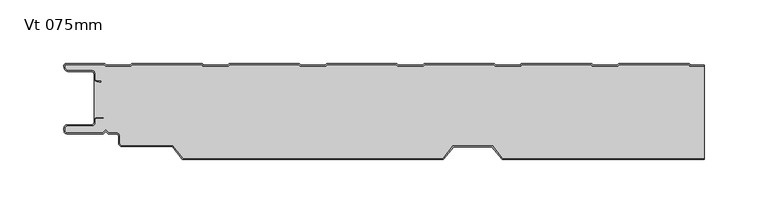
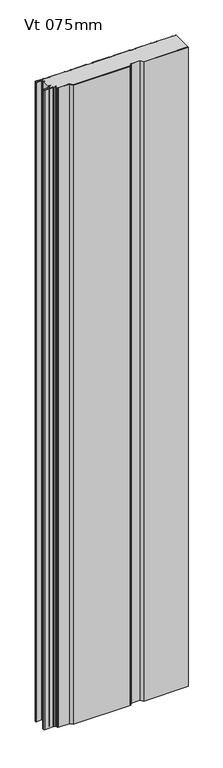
"""IFC4 building model written with IfcOpenShell, lengths in millimetres: plate geometry, KIP-MEX-KW-R19-CP-Vt-KW3_SL : Vt 075mm."""

from ifc_helpers import new_model, si_unit, point, frame_2d, origin, origin_with_axes, place, context, project, spatial, polyline, circle_curve, trimmed, segment, composite_curve, outline, extrude, source, transform, mapped, element, save


def vt_075mm_c0fd3bfb(model_context):
    return source(origin(), model_context, "Body", "SweptSolid", [
        extrude(outline(composite_curve([segment(polyline([(225.9039135, -2.1994992), (236.9739551, -2.1994992), (236.9739551, -74.0), (79.6249413, -74.0), (71.6249413, -64.0), (40.6636916, -64.0), (32.6630907, -74.0007512), (-170.3679967, -74.0007512), (-178.2758107, -63.8807501), (-218.2556822, -63.8807501)]), True, "CONTINUOUS"), segment(trimmed(circle_curve(frame_2d((-218.2060101, -62.3815743)), 1.4999984), [point((-218.2556822, -63.8807501))], [point((-219.7060085, -62.3815743))], False, "CARTESIAN"), True, "CONTINUOUS"), segment(polyline([(-219.7060085, -62.3815743), (-219.7060085, -56.8815682)]), True, "CONTINUOUS"), segment(trimmed(circle_curve(frame_2d((-222.7060141, -56.8815682)), 3.0000056), [point((-219.7060085, -56.8815682))], [point((-222.7060141, -53.8815626))], True, "CARTESIAN"), True, "CONTINUOUS"), segment(polyline([(-222.7060141, -53.8815626), (-228.2917754, -53.8815626), (-230.7060114, -51.4674051), (-233.1202474, -53.8817196), (-261.0062104, -53.8817196)]), True, "CONTINUOUS"), segment(trimmed(circle_curve(frame_2d((-261.0062104, -52.3814897)), 1.5002298), [point((-261.0062104, -53.8817196))], [point((-262.5064402, -52.3814897))], False, "CARTESIAN"), True, "CONTINUOUS"), segment(polyline([(-262.5064402, -52.3814897), (-262.5064402, -50.3983418)]), True, "CONTINUOUS"), segment(trimmed(circle_curve(frame_2d((-261.0055873, -50.3983418)), 1.5008529), [point((-262.5064402, -50.3983418))], [point((-261.0430722, -48.8979571))], False, "CARTESIAN"), True, "CONTINUOUS"), segment(polyline([(-261.0430722, -48.8979571), (-242.0059123, -48.8979571)]), True, "CONTINUOUS"), segment(trimmed(circle_curve(frame_2d((-242.0059123, -45.8966056)), 3.0013516), [point((-242.0059123, -48.8979571))], [point((-239.0056877, -45.8143642))], True, "CARTESIAN"), True, "CONTINUOUS"), segment(polyline([(-239.0056877, -45.8143642), (-239.0056877, -44.3893811)]), True, "CONTINUOUS"), segment(trimmed(circle_curve(frame_2d((-237.5051476, -44.3893811)), 1.5005402), [point((-239.0056877, -44.3893811))], [point((-237.5062722, -42.8888414))], False, "CARTESIAN"), True, "CONTINUOUS"), segment(polyline([(-237.5062722, -42.8888414), (-232.2480455, -42.8888414), (-232.2480455, -41.8719911), (-237.5115852, -41.8719911)]), True, "CONTINUOUS"), segment(trimmed(circle_curve(frame_2d((-237.5097191, -44.3622712)), 2.4902807), [point((-237.5115852, -41.8719911))], [point((-239.9999998, -44.3622712))], True, "CARTESIAN"), True, "CONTINUOUS"), segment(polyline([(-239.9999998, -44.3622712), (-239.9999998, -11.7956848)]), True, "CONTINUOUS"), segment(trimmed(circle_curve(frame_2d((-237.507267, -11.5959632)), 2.500721), [point((-239.9999998, -11.7956848))], [point((-237.9396711, -14.0590167))], True, "CARTESIAN"), True, "CONTINUOUS"), segment(polyline([(-237.9396711, -14.0590167), (-234.3973739, -14.6808886), (-234.2244628, -13.6959552), (-237.7667627, -13.0740827)]), True, "CONTINUOUS"), segment(trimmed(circle_curve(frame_2d((-237.5072716, -11.5959732)), 1.5007143), [point((-237.7667627, -13.0740827))], [point((-239.0079859, -11.5959732))], False, "CARTESIAN"), True, "CONTINUOUS"), segment(polyline([(-239.0079859, -11.5959732), (-239.0079859, -8.000131)]), True, "CONTINUOUS"), segment(trimmed(circle_curve(frame_2d((-242.0093089, -8.002219)), 3.0013237), [point((-239.0079859, -8.000131))], [point((-242.0093089, -5.0008953))], True, "CARTESIAN"), True, "CONTINUOUS"), segment(polyline([(-242.0093089, -5.0008953), (-260.0061347, -5.0008953)]), True, "CONTINUOUS"), segment(trimmed(circle_curve(frame_2d((-260.0061347, -2.5012654)), 2.4996299), [point((-260.0061347, -5.0008953))], [point((-262.5057646, -2.5012654))], False, "CARTESIAN"), True, "CONTINUOUS"), segment(polyline([(-262.5057646, -2.5012654), (-262.5057646, -1.0), (-232.0999194, -1.0), (-231.0133951, -2.1994992), (-211.0814168, -2.1994992), (-209.9948925, -1.0), (-155.9470346, -1.0), (-154.8605103, -2.1994992), (-134.928532, -2.1994992), (-133.8420077, -1.0), (-79.7941498, -1.0), (-78.7076256, -2.1994992), (-58.7756472, -2.1994992), (-57.689123, -1.0), (-3.6412651, -1.0), (-2.5547408, -2.1994992), (17.3772375, -2.1994992), (18.4637618, -1.0), (72.5116197, -1.0), (73.598144, -2.1994992), (93.5301223, -2.1994992), (94.6152208, -1.0), (148.6645044, -1.0), (149.7510287, -2.1994992), (169.683007, -2.1994992), (170.7695313, -1.0), (224.8173892, -1.0), (225.9039135, -2.1994992)]), True, "CONTINUOUS")], self_intersect=False)), origin_with_axes(), (0.0, 0.0, 1.0), 2400.0),
        extrude(outline(composite_curve([segment(polyline([(226.3473579, -1.1979254), (236.9739551, -1.1979254), (236.9739551, -2.1979254), (225.9039135, -2.1979254), (224.8173892, -0.9984262), (170.7695313, -0.9984262), (169.683007, -2.1979254), (149.7510287, -2.1979254), (148.6645044, -0.9984262), (94.6166466, -0.9984262), (93.5301223, -2.1979254), (73.598144, -2.1979254), (72.5116197, -0.9984262), (18.462336, -0.9984262), (17.3772375, -2.1979254), (-2.5547408, -2.1979254), (-3.6412651, -0.9984262), (-57.6905487, -0.9984262), (-58.7756472, -2.1979254), (-78.7076256, -2.1979254), (-79.7941498, -0.9984262), (-133.8434335, -0.9984262), (-134.928532, -2.1979254), (-154.8605103, -2.1979254), (-155.9470346, -0.9984262), (-209.9963182, -0.9984262), (-211.0814168, -2.1979254), (-231.0133951, -2.1979254), (-232.0999194, -0.9984262), (-262.5058795, -0.9984262), (-262.5058795, -2.4998352)]), True, "CONTINUOUS"), segment(trimmed(circle_curve(frame_2d((-260.0060773, -2.4998352)), 2.4998022), [point((-262.5058795, -2.4998352))], [point((-260.0060773, -4.9996374))], True, "CARTESIAN"), True, "CONTINUOUS"), segment(polyline([(-260.0060773, -4.9996374), (-242.0051314, -4.9996374)]), True, "CONTINUOUS"), segment(trimmed(circle_curve(frame_2d((-242.0051314, -8.0003457)), 3.0007082), [point((-242.0051314, -4.9996374))], [point((-239.0044239, -7.9982581))], False, "CARTESIAN"), True, "CONTINUOUS"), segment(polyline([(-239.0044239, -7.9982581), (-239.0044239, -11.5945268)]), True, "CONTINUOUS"), segment(trimmed(circle_curve(frame_2d((-237.504025, -11.5945268)), 1.5003989), [point((-239.0044239, -11.5945268))], [point((-237.7635333, -13.072313))], True, "CARTESIAN"), True, "CONTINUOUS"), segment(polyline([(-237.7635333, -13.072313), (-234.2214587, -13.694323), (-234.3944392, -14.679371), (-237.9367138, -14.0573259)]), True, "CONTINUOUS"), segment(trimmed(circle_curve(frame_2d((-237.5042133, -11.5944251)), 2.5005873), [point((-237.9367138, -14.0573259))], [point((-240.0048002, -11.5958995))], False, "CARTESIAN"), True, "CONTINUOUS"), segment(polyline([(-240.0048002, -11.5958995), (-240.0048002, -7.9987586)]), True, "CONTINUOUS"), segment(trimmed(circle_curve(frame_2d((-242.0053159, -8.0002578)), 2.0005162), [point((-240.0048002, -7.9987586))], [point((-242.0053159, -5.9997416))], True, "CARTESIAN"), True, "CONTINUOUS"), segment(polyline([(-242.0053159, -5.9997416), (-260.0060748, -5.9997416)]), True, "CONTINUOUS"), segment(trimmed(circle_curve(frame_2d((-260.0060748, -2.4998716)), 3.49987), [point((-260.0060748, -5.9997416))], [point((-263.5059449, -2.4998716))], False, "CARTESIAN"), True, "CONTINUOUS"), segment(polyline([(-263.5059449, -2.4998716), (-263.5059449, -1.4999879)]), True, "CONTINUOUS"), segment(trimmed(circle_curve(frame_2d((-262.0059812, -1.4999879)), 1.4999637), [point((-263.5059449, -1.4999879))], [point((-262.0059812, -2.42e-05))], False, "CARTESIAN"), True, "CONTINUOUS"), segment(polyline([(-262.0059812, -2.42e-05), (-231.6550494, -2.42e-05), (-230.5699507, -1.1979254), (-211.5248611, -1.1979254), (-210.4383368, 0.0), (-155.5021646, 0.0), (-154.4170659, -1.1979254), (-135.3719764, -1.1979254), (-134.2854521, 0.0), (-79.3492799, 0.0), (-78.2641812, -1.1979254), (-59.2190916, -1.1979254), (-58.1325673, 0.0), (-3.1963951, 0.0), (-2.1112964, -1.1979254), (16.9337932, -1.1979254), (18.0203174, 0.0), (72.9564896, 0.0), (74.0415883, -1.1979254), (93.0866779, -1.1979254), (94.1732022, 0.0), (149.1093744, 0.0), (150.1944731, -1.1979254), (169.2395627, -1.1979254), (170.326087, 0.0), (225.2622592, 0.0), (226.3473579, -1.1979254)]), True, "CONTINUOUS")], self_intersect=False)), origin_with_axes(), (0.0, 0.0, 1.0), 2400.0),
        extrude(outline(composite_curve([segment(polyline([(79.6249413, -74.0), (236.9739551, -74.0), (236.9739551, -75.0), (79.1443164, -75.0), (71.1443164, -65.0), (41.1443164, -65.0), (33.1443164, -75.0), (-170.8556836, -75.0), (-178.7634976, -64.8799997), (-218.270141, -64.8799997)]), True, "CONTINUOUS"), segment(trimmed(circle_curve(frame_2d((-218.2060109, -62.3808228)), 2.4999995), [point((-218.270141, -64.8799997))], [point((-220.7060104, -62.3808228))], False, "CARTESIAN"), True, "CONTINUOUS"), segment(polyline([(-220.7060104, -62.3808228), (-220.7060104, -56.8808208)]), True, "CONTINUOUS"), segment(trimmed(circle_curve(frame_2d((-222.7060123, -56.8808208)), 2.0000019), [point((-220.7060104, -56.8808208))], [point((-222.7060123, -54.880819))], True, "CARTESIAN"), True, "CONTINUOUS"), segment(polyline([(-222.7060123, -54.880819), (-228.706004, -54.880819), (-230.7060114, -52.8808375), (-232.7060188, -54.8808707), (-261.006077, -54.8808707)]), True, "CONTINUOUS"), segment(trimmed(circle_curve(frame_2d((-261.006077, -52.3807949)), 2.5000758), [point((-261.006077, -54.8808707))], [point((-263.5061528, -52.3807949))], False, "CARTESIAN"), True, "CONTINUOUS"), segment(polyline([(-263.5061528, -52.3807949), (-263.5061528, -50.3981504)]), True, "CONTINUOUS"), segment(trimmed(circle_curve(frame_2d((-261.0058724, -50.3981504)), 2.5002804), [point((-263.5061528, -50.3981504))], [point((-261.0542462, -47.898338))], False, "CARTESIAN"), True, "CONTINUOUS"), segment(polyline([(-261.0542462, -47.898338), (-242.003626, -47.898338)]), True, "CONTINUOUS"), segment(trimmed(circle_curve(frame_2d((-242.003626, -45.8947114)), 2.0036267), [point((-242.003626, -47.898338))], [point((-239.9999998, -45.8932097))], True, "CARTESIAN"), True, "CONTINUOUS"), segment(polyline([(-239.9999998, -45.8932097), (-239.9999998, -44.36152)]), True, "CONTINUOUS"), segment(trimmed(circle_curve(frame_2d((-237.5097191, -44.36152)), 2.4902807), [point((-239.9999998, -44.36152))], [point((-237.5115852, -41.87124))], False, "CARTESIAN"), True, "CONTINUOUS"), segment(polyline([(-237.5115852, -41.87124), (-232.2480455, -41.87124), (-232.2480455, -42.8880902), (-237.5062722, -42.8880902)]), True, "CONTINUOUS"), segment(trimmed(circle_curve(frame_2d((-237.5051476, -44.38863)), 1.5005402), [point((-237.5062722, -42.8880902))], [point((-239.0056877, -44.38863))], True, "CARTESIAN"), True, "CONTINUOUS"), segment(polyline([(-239.0056877, -44.38863), (-239.0056877, -45.813613)]), True, "CONTINUOUS"), segment(trimmed(circle_curve(frame_2d((-242.0059123, -45.8958544)), 3.0013516), [point((-239.0056877, -45.813613))], [point((-242.0059123, -48.897206))], False, "CARTESIAN"), True, "CONTINUOUS"), segment(polyline([(-242.0059123, -48.897206), (-261.0430722, -48.8972059)]), True, "CONTINUOUS"), segment(trimmed(circle_curve(frame_2d((-261.0055873, -50.3975906)), 1.5008529), [point((-261.0430722, -48.8972059))], [point((-262.5064402, -50.3975906))], True, "CARTESIAN"), True, "CONTINUOUS"), segment(polyline([(-262.5064402, -50.3975906), (-262.5064402, -52.3807386)]), True, "CONTINUOUS"), segment(trimmed(circle_curve(frame_2d((-261.0062104, -52.3807386)), 1.5002298), [point((-262.5064402, -52.3807386))], [point((-261.0062104, -53.8809684))], True, "CARTESIAN"), True, "CONTINUOUS"), segment(polyline([(-261.0062104, -53.8809684), (-233.1202474, -53.8809684), (-230.7060114, -51.4666539), (-228.2917754, -53.8808114), (-222.7060141, -53.8808114)]), True, "CONTINUOUS"), segment(trimmed(circle_curve(frame_2d((-222.7060141, -56.8808171)), 3.0000056), [point((-222.7060141, -53.8808114))], [point((-219.7060085, -56.8808171))], False, "CARTESIAN"), True, "CONTINUOUS"), segment(polyline([(-219.7060085, -56.8808171), (-219.7060085, -62.3808232)]), True, "CONTINUOUS"), segment(trimmed(circle_curve(frame_2d((-218.2060101, -62.3808232)), 1.4999984), [point((-219.7060085, -62.3808232))], [point((-218.2556822, -63.879999))], True, "CARTESIAN"), True, "CONTINUOUS"), segment(polyline([(-218.2556822, -63.879999), (-178.2758107, -63.879999), (-170.3679967, -74.0), (32.6636916, -74.0), (40.6636916, -64.0), (71.6249413, -64.0), (79.6249413, -74.0)]), True, "CONTINUOUS")], self_intersect=False)), origin_with_axes(), (0.0, 0.0, 1.0), 2400.0),
    ])


if __name__ == "__main__":
    model = new_model("IFC4")
    model_context = context("Model", 3, world=origin())
    ifc_project = project(units=[si_unit("LENGTHUNIT", "METRE", prefix="MILLI")], contexts=[model_context])
    site = spatial("IfcSite", under=ifc_project)
    building = spatial("IfcBuilding", under=site)
    placement = place(None, origin())
    vt_075mm_shape = vt_075mm_c0fd3bfb(model_context)
    element("IfcPlate", 1, ObjectType="KIP-MEX-KW-R19-CP-Vt-KW3_SL : Vt 075mm", at=placement, inside=building, context=model_context, shape_type="MappedRepresentation", body=[
        mapped(vt_075mm_shape, transform((0.0, 0.0, 0.0), x_axis=(1.0, 0.0, 0.0), y_axis=(0.0, 1.0, 0.0), z_axis=(0.0, 0.0, 1.0))),
    ])
    save(model, "model.ifc")
